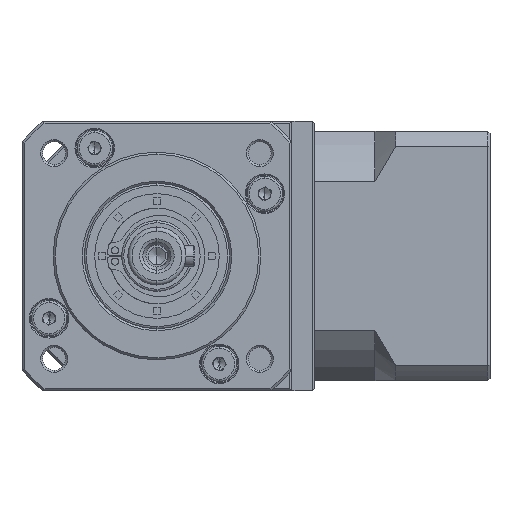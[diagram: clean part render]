
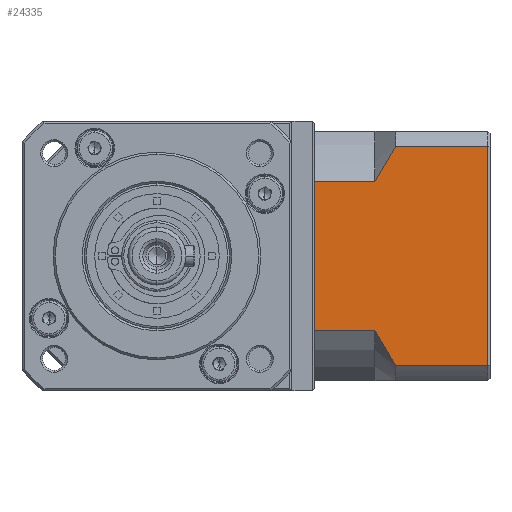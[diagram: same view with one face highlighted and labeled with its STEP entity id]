
A CAD part, left-side view. The second image highlights one B-rep face of the part: STEP entity #24335.
In plain terms, the highlighted planar face has unit normal (-1, 0, 0).
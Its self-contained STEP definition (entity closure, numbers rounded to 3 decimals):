
#344 = VERTEX_POINT ( 'NONE', #131755 ) ;
#9369 = DIRECTION ( 'NONE',  ( 0., 1., 0. ) ) ;
#10115 = ORIENTED_EDGE ( 'NONE', *, *, #64329, .F. ) ;
#11196 = VERTEX_POINT ( 'NONE', #136268 ) ;
#13397 = CARTESIAN_POINT ( 'NONE',  ( -28.259, -60.646, -98.775 ) ) ;
#13681 = EDGE_CURVE ( 'NONE', #159211, #55308, #50396, .T. ) ;
#14007 = CARTESIAN_POINT ( 'NONE',  ( -28.259, -46.146, -134.83 ) ) ;
#19638 = DIRECTION ( 'NONE',  ( 0., 0., 1. ) ) ;
#19775 = CARTESIAN_POINT ( 'NONE',  ( -28.259, -88.346, -146.803 ) ) ;
#24335 = ADVANCED_FACE ( 'NONE', ( #57159 ), #133306, .F. ) ;
#24984 = CARTESIAN_POINT ( 'NONE',  ( -28.259, -64.746, -91.705 ) ) ;
#26518 = CARTESIAN_POINT ( 'NONE',  ( -28.259, -62.197, -137.712 ) ) ;
#26870 = VERTEX_POINT ( 'NONE', #119578 ) ;
#27257 = ORIENTED_EDGE ( 'NONE', *, *, #96840, .T. ) ;
#29214 = VERTEX_POINT ( 'NONE', #143892 ) ;
#32527 = DIRECTION ( 'NONE',  ( 0., 1., 0. ) ) ;
#37698 = CARTESIAN_POINT ( 'NONE',  ( -28.259, -63.873, -93.084 ) ) ;
#39230 = CARTESIAN_POINT ( 'NONE',  ( -28.259, -64.745, -141.897 ) ) ;
#44838 = EDGE_CURVE ( 'NONE', #159211, #113792, #117242, .T. ) ;
#46056 = VECTOR ( 'NONE', #9369, 1000. ) ;
#49898 = VECTOR ( 'NONE', #80275, 1000. ) ;
#50395 = CARTESIAN_POINT ( 'NONE',  ( -28.259, -61.394, -97.323 ) ) ;
#50396 = LINE ( 'NONE', #13397, #113777 ) ;
#51882 = VECTOR ( 'NONE', #19638, 1000. ) ;
#54858 = CARTESIAN_POINT ( 'NONE',  ( -28.259, -46.146, -146.803 ) ) ;
#55308 = VERTEX_POINT ( 'NONE', #68533 ) ;
#56071 = B_SPLINE_CURVE_WITH_KNOTS ( 'NONE', 3,
 ( #64120, #76260, #26518, #115044, #39230, #127802 ),
 .UNSPECIFIED., .F., .F.,
 ( 4, 2, 4 ),
 ( 0.1, 0.104, 0.109 ),
 .UNSPECIFIED. ) ;
#57159 = FACE_OUTER_BOUND ( 'NONE', #108276, .T. ) ;
#57733 = ORIENTED_EDGE ( 'NONE', *, *, #163061, .T. ) ;
#59106 = LINE ( 'NONE', #140276, #156214 ) ;
#64120 = CARTESIAN_POINT ( 'NONE',  ( -28.259, -60.646, -134.83 ) ) ;
#64329 = EDGE_CURVE ( 'NONE', #29214, #344, #144059, .T. ) ;
#64390 = DIRECTION ( 'NONE',  ( 0., 1., 0. ) ) ;
#65881 = CARTESIAN_POINT ( 'NONE',  ( -28.259, -60.646, -90.345 ) ) ;
#68007 = AXIS2_PLACEMENT_3D ( 'NONE', #19775, #108355, #32527 ) ;
#68533 = CARTESIAN_POINT ( 'NONE',  ( -28.259, -60.646, -98.775 ) ) ;
#68934 = ORIENTED_EDGE ( 'NONE', *, *, #44838, .T. ) ;
#70240 = CARTESIAN_POINT ( 'NONE',  ( -28.259, -87.846, -143.26 ) ) ;
#72822 = ORIENTED_EDGE ( 'NONE', *, *, #106409, .T. ) ;
#73861 = EDGE_CURVE ( 'NONE', #162659, #26870, #59106, .T. ) ;
#76260 = CARTESIAN_POINT ( 'NONE',  ( -28.259, -61.396, -136.287 ) ) ;
#80275 = DIRECTION ( 'NONE',  ( 0., 0., -1. ) ) ;
#95505 = CARTESIAN_POINT ( 'NONE',  ( -28.259, -87.846, -146.803 ) ) ;
#96840 = EDGE_CURVE ( 'NONE', #29214, #55308, #131988, .T. ) ;
#100813 = CARTESIAN_POINT ( 'NONE',  ( -28.259, -65.646, -90.345 ) ) ;
#106409 = EDGE_CURVE ( 'NONE', #162659, #344, #148975, .T. ) ;
#106906 = ORIENTED_EDGE ( 'NONE', *, *, #162379, .F. ) ;
#108276 = EDGE_LOOP ( 'NONE', ( #108712, #72822, #10115, #27257, #164378, #68934, #106906, #57733 ) ) ;
#108355 = DIRECTION ( 'NONE',  ( 1., 0., 0. ) ) ;
#108712 = ORIENTED_EDGE ( 'NONE', *, *, #73861, .F. ) ;
#113777 = VECTOR ( 'NONE', #127442, 1000. ) ;
#113792 = VERTEX_POINT ( 'NONE', #14007 ) ;
#114030 = CARTESIAN_POINT ( 'NONE',  ( -28.259, -46.146, -98.775 ) ) ;
#115044 = CARTESIAN_POINT ( 'NONE',  ( -28.259, -63.871, -140.518 ) ) ;
#117242 = LINE ( 'NONE', #54858, #49898 ) ;
#119578 = CARTESIAN_POINT ( 'NONE',  ( -28.259, -65.646, -143.26 ) ) ;
#126283 = CARTESIAN_POINT ( 'NONE',  ( -28.259, -62.197, -95.891 ) ) ;
#127442 = DIRECTION ( 'NONE',  ( 0., -1., 0. ) ) ;
#127802 = CARTESIAN_POINT ( 'NONE',  ( -28.259, -65.646, -143.26 ) ) ;
#131755 = CARTESIAN_POINT ( 'NONE',  ( -28.259, -87.846, -90.345 ) ) ;
#131988 = B_SPLINE_CURVE_WITH_KNOTS ( 'NONE', 3,
 ( #100813, #24984, #37698, #126283, #50395, #139026 ),
 .UNSPECIFIED., .F., .F.,
 ( 4, 2, 4 ),
 ( 0.052, 0.057, 0.062 ),
 .UNSPECIFIED. ) ;
#133306 = PLANE ( 'NONE',  #68007 ) ;
#136268 = CARTESIAN_POINT ( 'NONE',  ( -28.259, -60.646, -134.83 ) ) ;
#139026 = CARTESIAN_POINT ( 'NONE',  ( -28.259, -60.646, -98.775 ) ) ;
#140134 = VECTOR ( 'NONE', #152844, 1000. ) ;
#140276 = CARTESIAN_POINT ( 'NONE',  ( -28.259, -60.646, -143.26 ) ) ;
#143892 = CARTESIAN_POINT ( 'NONE',  ( -28.259, -65.646, -90.345 ) ) ;
#144059 = LINE ( 'NONE', #65881, #140134 ) ;
#147097 = LINE ( 'NONE', #161118, #46056 ) ;
#148975 = LINE ( 'NONE', #95505, #51882 ) ;
#152844 = DIRECTION ( 'NONE',  ( 0., -1., 0. ) ) ;
#156214 = VECTOR ( 'NONE', #64390, 1000. ) ;
#159211 = VERTEX_POINT ( 'NONE', #114030 ) ;
#161118 = CARTESIAN_POINT ( 'NONE',  ( -28.259, -60.646, -134.83 ) ) ;
#162379 = EDGE_CURVE ( 'NONE', #11196, #113792, #147097, .T. ) ;
#162659 = VERTEX_POINT ( 'NONE', #70240 ) ;
#163061 = EDGE_CURVE ( 'NONE', #11196, #26870, #56071, .T. ) ;
#164378 = ORIENTED_EDGE ( 'NONE', *, *, #13681, .F. ) ;
